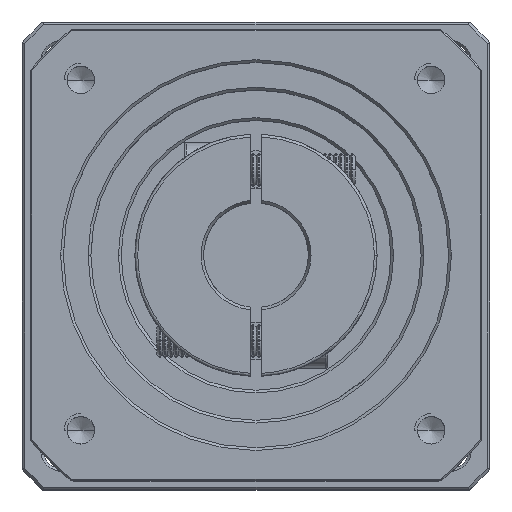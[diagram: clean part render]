
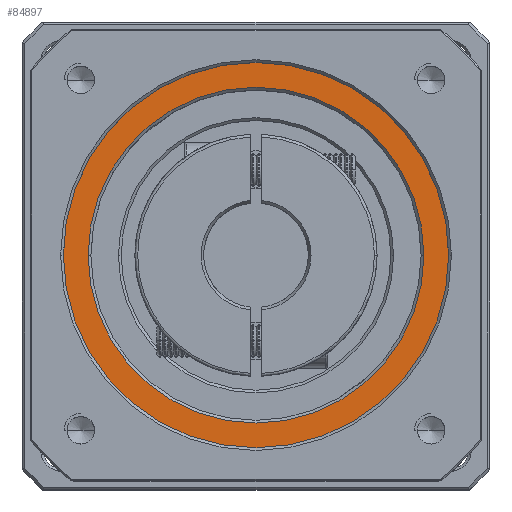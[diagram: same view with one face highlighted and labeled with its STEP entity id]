
A CAD part, top view. The second image highlights one B-rep face of the part: STEP entity #84897.
In plain terms, the highlighted planar face has unit normal (0, 0, 1).
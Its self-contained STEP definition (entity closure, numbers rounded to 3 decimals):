
#1350 = CARTESIAN_POINT ( 'NONE',  ( -113.332, 33.92, 38.171 ) ) ;
#7435 = EDGE_LOOP ( 'NONE', ( #96357, #81029 ) ) ;
#16373 = CARTESIAN_POINT ( 'NONE',  ( -117.832, 33.92, 38.171 ) ) ;
#22365 = AXIS2_PLACEMENT_3D ( 'NONE', #84414, #30786, #93351 ) ;
#23030 = CARTESIAN_POINT ( 'NONE',  ( -82.832, 33.92, 38.171 ) ) ;
#27299 = CARTESIAN_POINT ( 'NONE',  ( -82.832, 33.92, 38.171 ) ) ;
#28344 = CARTESIAN_POINT ( 'NONE',  ( -52.332, 33.92, 38.171 ) ) ;
#30786 = DIRECTION ( 'NONE',  ( 0., 0., -1. ) ) ;
#31498 = CIRCLE ( 'NONE', #22365, 30.5 ) ;
#32040 = DIRECTION ( 'NONE',  ( 1., 0., 0. ) ) ;
#32420 = CIRCLE ( 'NONE', #108469, 35. ) ;
#36328 = DIRECTION ( 'NONE',  ( 1., 0., 0. ) ) ;
#38287 = EDGE_CURVE ( 'NONE', #112979, #110737, #32420, .T. ) ;
#44988 = FACE_OUTER_BOUND ( 'NONE', #7435, .T. ) ;
#45674 = CARTESIAN_POINT ( 'NONE',  ( -82.832, 33.92, 38.171 ) ) ;
#47777 = EDGE_CURVE ( 'NONE', #61039, #51542, #104758, .T. ) ;
#47812 = FACE_BOUND ( 'NONE', #78936, .T. ) ;
#49372 = AXIS2_PLACEMENT_3D ( 'NONE', #27299, #89885, #36328 ) ;
#50013 = EDGE_CURVE ( 'NONE', #110737, #112979, #105160, .T. ) ;
#50999 = CARTESIAN_POINT ( 'NONE',  ( -82.832, 33.92, 38.171 ) ) ;
#51542 = VERTEX_POINT ( 'NONE', #28344 ) ;
#54692 = DIRECTION ( 'NONE',  ( 1., 0., 0. ) ) ;
#59956 = DIRECTION ( 'NONE',  ( 1., 0., 0. ) ) ;
#61039 = VERTEX_POINT ( 'NONE', #1350 ) ;
#63995 = EDGE_CURVE ( 'NONE', #51542, #61039, #31498, .T. ) ;
#78936 = EDGE_LOOP ( 'NONE', ( #107659, #110411 ) ) ;
#81029 = ORIENTED_EDGE ( 'NONE', *, *, #38287, .T. ) ;
#83622 = CARTESIAN_POINT ( 'NONE',  ( -47.832, 33.92, 38.171 ) ) ;
#84414 = CARTESIAN_POINT ( 'NONE',  ( -82.832, 33.92, 38.171 ) ) ;
#84897 = ADVANCED_FACE ( 'NONE', ( #44988, #47812 ), #86124, .T. ) ;
#85673 = DIRECTION ( 'NONE',  ( 0., 0., 1. ) ) ;
#86124 = PLANE ( 'NONE',  #103713 ) ;
#88542 = AXIS2_PLACEMENT_3D ( 'NONE', #23030, #85673, #32040 ) ;
#89885 = DIRECTION ( 'NONE',  ( 0., 0., -1. ) ) ;
#93351 = DIRECTION ( 'NONE',  ( 1., 0., 0. ) ) ;
#96357 = ORIENTED_EDGE ( 'NONE', *, *, #50013, .T. ) ;
#103713 = AXIS2_PLACEMENT_3D ( 'NONE', #50999, #113513, #59956 ) ;
#104758 = CIRCLE ( 'NONE', #49372, 30.5 ) ;
#105160 = CIRCLE ( 'NONE', #88542, 35. ) ;
#107659 = ORIENTED_EDGE ( 'NONE', *, *, #63995, .T. ) ;
#108282 = DIRECTION ( 'NONE',  ( 0., 0., 1. ) ) ;
#108469 = AXIS2_PLACEMENT_3D ( 'NONE', #45674, #108282, #54692 ) ;
#110411 = ORIENTED_EDGE ( 'NONE', *, *, #47777, .T. ) ;
#110737 = VERTEX_POINT ( 'NONE', #83622 ) ;
#112979 = VERTEX_POINT ( 'NONE', #16373 ) ;
#113513 = DIRECTION ( 'NONE',  ( 0., 0., 1. ) ) ;
